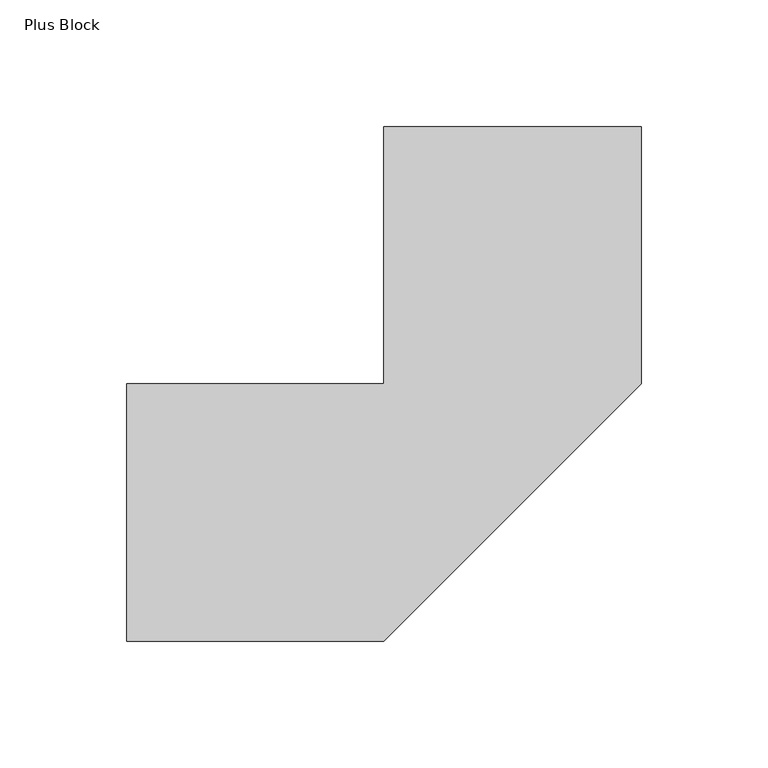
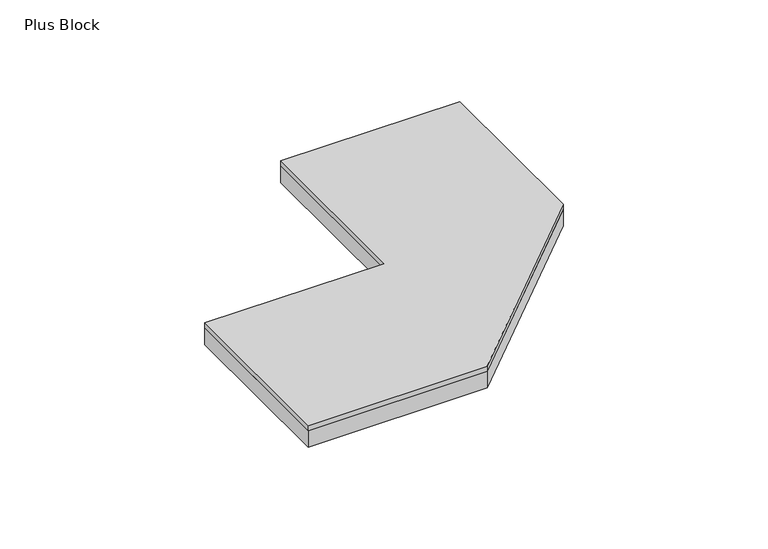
"""IFC4 building model written with IfcOpenShell, lengths in millimetres: proxy geometry, FilzFelt_Plus_Block : Plus Block."""

from ifc_helpers import new_model, si_unit, frame, origin, origin_with_axes, place, context, project, spatial, polyline, outline, extrude, source, transform, mapped, element, save


def plus_block_d2276059(model_context):
    return source(origin(), model_context, "Body", "SweptSolid", [
        extrude(outline(polyline([(-50.8333333, -50.8333333), (-152.5, -50.8333333), (-152.5, 50.8333333), (-50.8333333, 50.8333333), (-50.8333333, 152.5), (50.8333333, 152.5), (50.8333333, 50.8333333), (-50.8333333, -50.8333333)])), frame((0.0, 0.0, 10.0210937), z_axis=(0.0, 0.0, 1.0), x_axis=(1.0, 0.0, 0.0)), (0.0, 0.0, 1.0), 2.9765625),
        extrude(outline(polyline([(-152.5, -50.8333333), (-152.5, 50.8333333), (-50.8333333, 50.8333333), (-50.8333333, 152.5), (50.8333333, 152.5), (50.8333333, 50.8333333), (-50.8333333, -50.8333333), (-152.5, -50.8333333)])), origin_with_axes(), (0.0, 0.0, 1.0), 10.0210938),
    ])


if __name__ == "__main__":
    model = new_model("IFC4")
    model_context = context("Model", 3, world=origin())
    ifc_project = project(units=[si_unit("LENGTHUNIT", "METRE", prefix="MILLI")], contexts=[model_context])
    site = spatial("IfcSite", under=ifc_project)
    building = spatial("IfcBuilding", under=site)
    placement = place(None, origin())
    plus_block_shape = plus_block_d2276059(model_context)
    element("IfcBuildingElementProxy", 1, Name="FilzFelt_Plus_Block : Plus Block", ObjectType="FilzFelt_Plus_Block : Plus Block", at=placement, inside=building, context=model_context, shape_type="MappedRepresentation", body=[
        mapped(plus_block_shape, transform((0.0, 0.0, 0.0), x_axis=(1.0, 0.0, 0.0), y_axis=(0.0, 1.0, 0.0), z_axis=(0.0, 0.0, 1.0))),
    ])
    save(model, "model.ifc")
